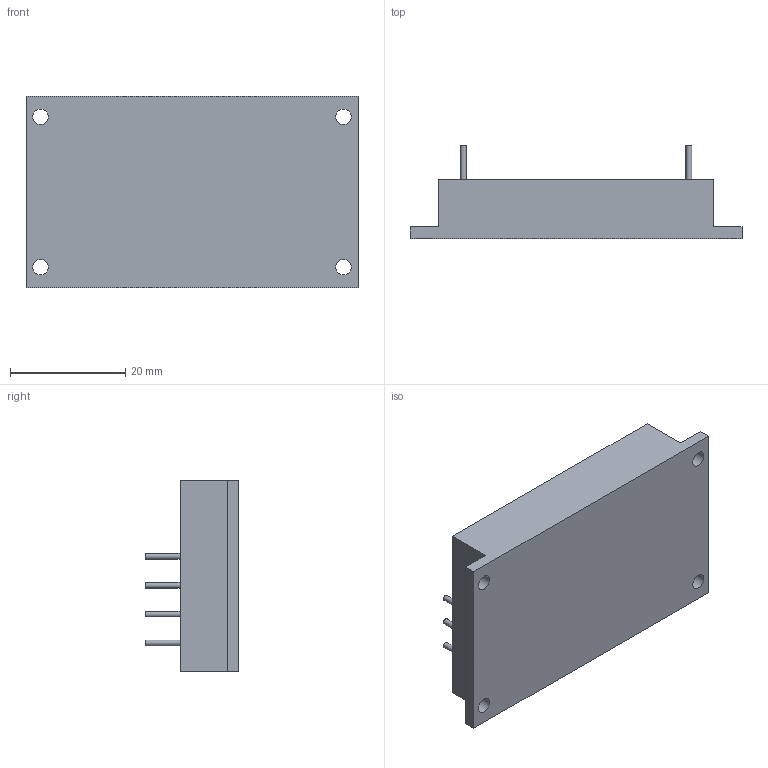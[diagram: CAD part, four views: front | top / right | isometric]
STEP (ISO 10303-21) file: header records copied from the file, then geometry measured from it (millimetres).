
FILE_DESCRIPTION(('STEP AP203'), '1');
FILE_NAME('ﾌﾄﾌ25-1ﾓﾏ ﾈ2', '', ('UNSPECIFIED'), ('UNSPECIFIED'), 'C3D Converter', 'C3D Toolkit', '');
FILE_SCHEMA(('CONFIG_CONTROL_DESIGN'));
Length unit declared in the file: millimetre
Products named in the file (1): МДМ7,5(10)-1У
Bounding box: 57.5 x 16.15 x 33.2 mm (x, y, z)
Volume: 16711.8 mm3; surface area: 5653.5 mm2
Topology: 1 solids, 1 shells, 28 faces, 57 edges, 38 vertices
Faces by surface type: plane 17, cylinder 11
Full cylindrical faces by diameter (mm): 1 x7, 2.7 x4
Entity records: 963 total; most frequent: DIRECTION 126, CARTESIAN_POINT 113, ORIENTED_EDGE 92, EDGE_LOOP 54, AXIS2_PLACEMENT_3D 51, EDGE_CURVE 46, VERTEX_POINT 38, FACE_BOUND 32
